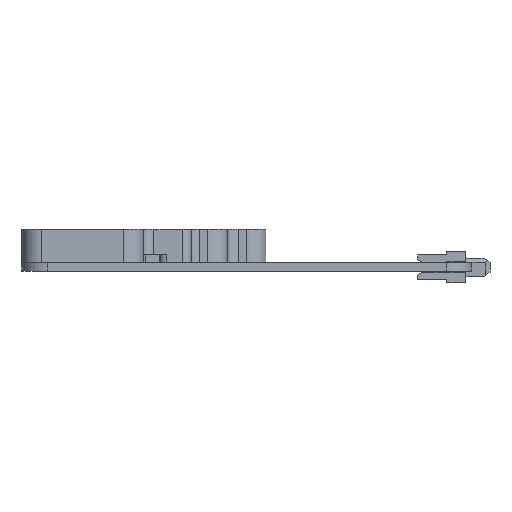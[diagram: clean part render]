
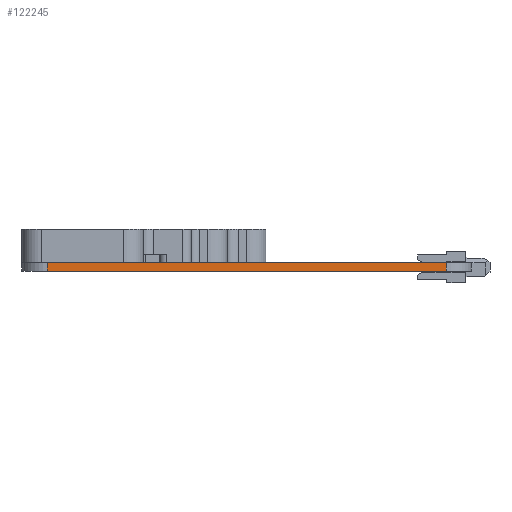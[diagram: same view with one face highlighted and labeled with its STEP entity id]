
A CAD part, left-side view. The second image highlights one B-rep face of the part: STEP entity #122245.
In plain terms, the highlighted planar face has unit normal (-1, 0, 0) as drawn and (1, 0, 0) by its records, which use the part's own axes.
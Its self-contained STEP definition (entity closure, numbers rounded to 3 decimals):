
#1837 = LINE ( 'NONE', #16506, #221044 ) ;
#2922 = ORIENTED_EDGE ( 'NONE', *, *, #200588, .T. ) ;
#4098 = LINE ( 'NONE', #121375, #169516 ) ;
#16506 = CARTESIAN_POINT ( 'NONE',  ( 92.4, 4.95, 0. ) ) ;
#21337 = DIRECTION ( 'NONE',  ( 0., -1., 0. ) ) ;
#25142 = CARTESIAN_POINT ( 'NONE',  ( 92.4, 76.47, 0. ) ) ;
#38197 = DIRECTION ( 'NONE',  ( 0., -1., 0. ) ) ;
#48108 = CARTESIAN_POINT ( 'NONE',  ( 92.4, 76.47, 0. ) ) ;
#61452 = LINE ( 'NONE', #62742, #202671 ) ;
#62742 = CARTESIAN_POINT ( 'NONE',  ( 92.4, 76.47, 1.486 ) ) ;
#63154 = DIRECTION ( 'NONE',  ( 0., 0., 1. ) ) ;
#76967 = CARTESIAN_POINT ( 'NONE',  ( 92.4, 76.47, 0. ) ) ;
#82737 = DIRECTION ( 'NONE',  ( 0., 0., 1. ) ) ;
#91230 = EDGE_CURVE ( 'NONE', #152764, #104323, #100858, .T. ) ;
#97329 = EDGE_CURVE ( 'NONE', #104323, #234310, #1837, .T. ) ;
#100858 = LINE ( 'NONE', #76967, #231574 ) ;
#101165 = FACE_OUTER_BOUND ( 'NONE', #122600, .T. ) ;
#104323 = VERTEX_POINT ( 'NONE', #206349 ) ;
#106455 = DIRECTION ( 'NONE',  ( 1., 0., 0. ) ) ;
#121375 = CARTESIAN_POINT ( 'NONE',  ( 92.4, 76.47, 0. ) ) ;
#122245 = ADVANCED_FACE ( 'NONE', ( #101165 ), #221009, .T. ) ;
#122600 = EDGE_LOOP ( 'NONE', ( #2922, #244024, #178050, #250962 ) ) ;
#152764 = VERTEX_POINT ( 'NONE', #48108 ) ;
#169516 = VECTOR ( 'NONE', #82737, 1000. ) ;
#178050 = ORIENTED_EDGE ( 'NONE', *, *, #97329, .F. ) ;
#183819 = VERTEX_POINT ( 'NONE', #238627 ) ;
#187579 = DIRECTION ( 'NONE',  ( 0., 1., 0. ) ) ;
#200588 = EDGE_CURVE ( 'NONE', #152764, #183819, #4098, .T. ) ;
#202671 = VECTOR ( 'NONE', #21337, 1000. ) ;
#206349 = CARTESIAN_POINT ( 'NONE',  ( 92.4, 4.95, 0. ) ) ;
#221009 = PLANE ( 'NONE',  #244453 ) ;
#221044 = VECTOR ( 'NONE', #63154, 1000. ) ;
#227793 = CARTESIAN_POINT ( 'NONE',  ( 92.4, 4.95, 1.486 ) ) ;
#231574 = VECTOR ( 'NONE', #38197, 1000. ) ;
#234310 = VERTEX_POINT ( 'NONE', #227793 ) ;
#238627 = CARTESIAN_POINT ( 'NONE',  ( 92.4, 76.47, 1.486 ) ) ;
#244024 = ORIENTED_EDGE ( 'NONE', *, *, #255103, .T. ) ;
#244453 = AXIS2_PLACEMENT_3D ( 'NONE', #25142, #106455, #187579 ) ;
#250962 = ORIENTED_EDGE ( 'NONE', *, *, #91230, .F. ) ;
#255103 = EDGE_CURVE ( 'NONE', #183819, #234310, #61452, .T. ) ;
